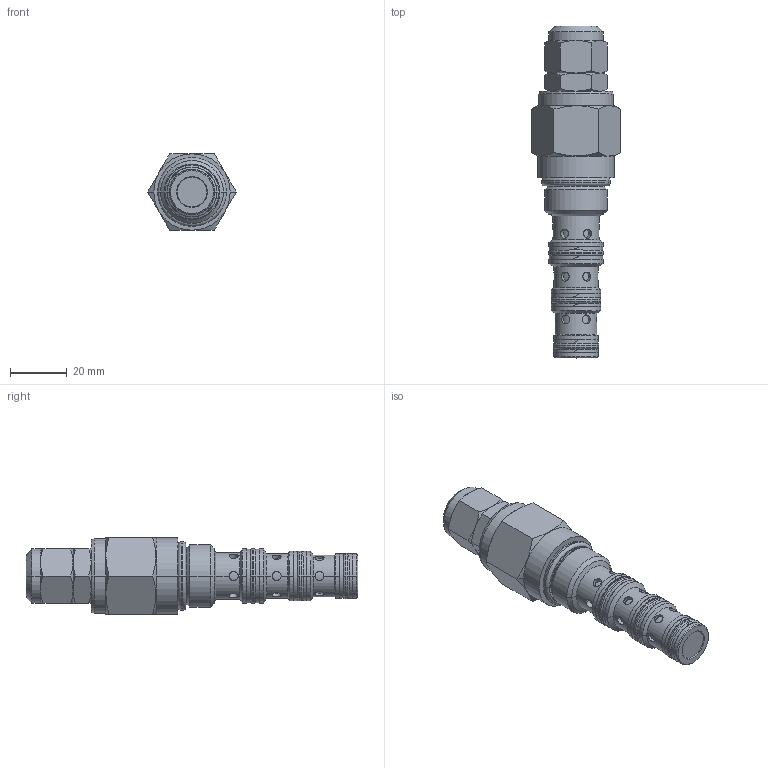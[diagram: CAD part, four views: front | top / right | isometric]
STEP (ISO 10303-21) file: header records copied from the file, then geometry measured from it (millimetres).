
FILE_DESCRIPTION((''),'2;1');
FILE_NAME('DCPS-10-A-C-OUT','2015-12-21T',('torrese'),(''),'PRO/ENGINEER BY PARAMETRIC TECHNOLOGY CORPORATION, 2015070','PRO/ENGINEER BY PARAMETRIC TECHNOLOGY CORPORATION, 2015070','');
FILE_SCHEMA(('CONFIG_CONTROL_DESIGN','GEOMETRIC_VALIDATION_PROPERTIES_MIM'));
Length unit declared in the file: inch
Products named in the file (1): DCPS-10-A-C-OUT
Bounding box: 31.15 x 116.56 x 26.97 mm (x, y, z)
Volume: 40539.5 mm3; surface area: 9758.4 mm2
Topology: 1 solids, 1 shells, 242 faces, 544 edges, 327 vertices
Faces by surface type: cylinder 112, plane 55, cone 55, torus 20
Entity records: 18944 total; most frequent: CARTESIAN_POINT 10901, ORIENTED_EDGE 1088, DIRECTION 1058, PRESENTATION_STYLE_ASSIGNMENT 691, STYLED_ITEM 567, CURVE_STYLE 544, EDGE_CURVE 544, AXIS2_PLACEMENT_3D 442
